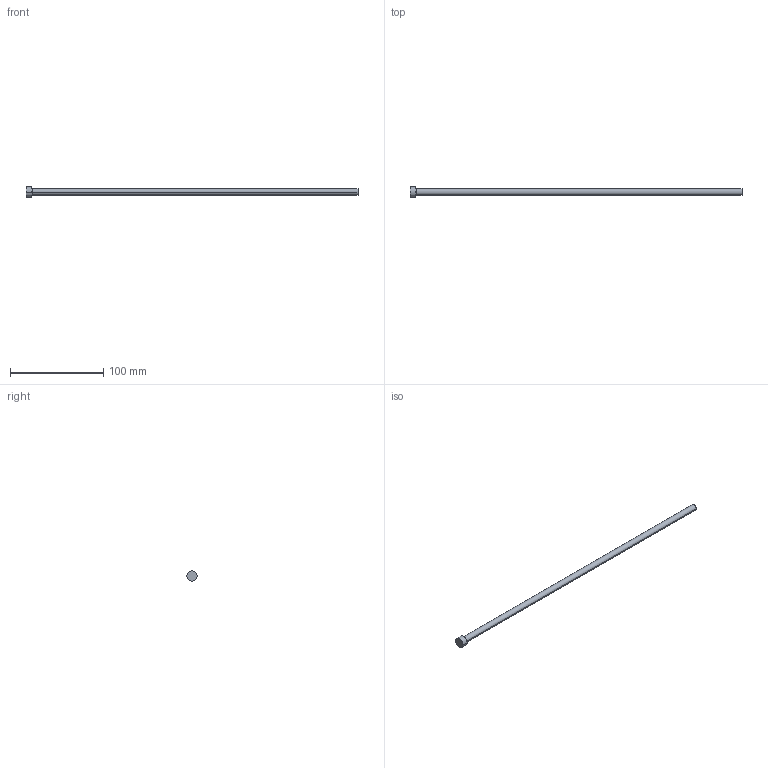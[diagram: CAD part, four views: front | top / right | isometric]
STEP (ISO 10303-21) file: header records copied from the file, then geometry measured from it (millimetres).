
FILE_DESCRIPTION (( 'STEP AP214' ), '1' );
FILE_NAME ('P18-14.STEP', '2020-03-12T08:52:32', ( '' ), ( '' ), 'SwSTEP 2.0', 'SolidWorks 2018', '' );
FILE_SCHEMA (( 'AUTOMOTIVE_DESIGN' ));
Length unit declared in the file: inch
Products named in the file (1): P18-14
Bounding box: 355.6 x 11.11 x 11.11 mm (x, y, z)
Volume: 13076.3 mm3; surface area: 7799.1 mm2
Topology: 1 solids, 1 shells, 13 faces, 24 edges, 14 vertices
Faces by surface type: cone 4, cylinder 4, plane 3, torus 2
Entity records: 366 total; most frequent: DIRECTION 68, CARTESIAN_POINT 52, ORIENTED_EDGE 48, AXIS2_PLACEMENT_3D 30, EDGE_CURVE 24, CIRCLE 16, EDGE_LOOP 14, VERTEX_POINT 14
